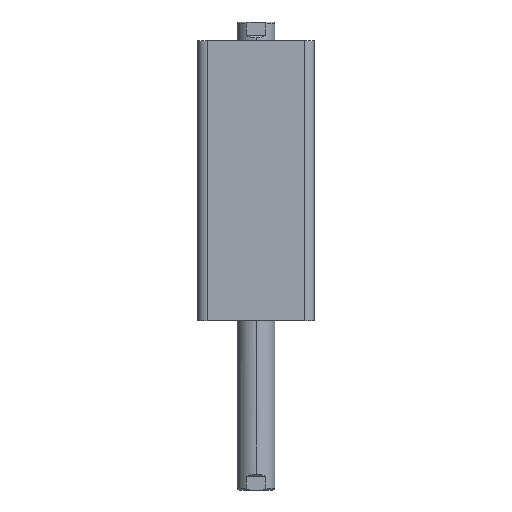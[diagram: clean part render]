
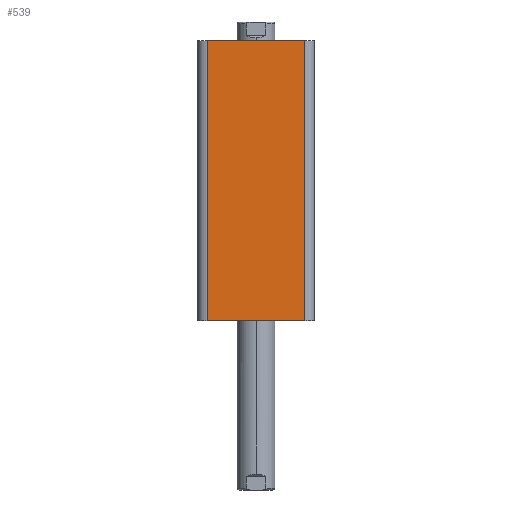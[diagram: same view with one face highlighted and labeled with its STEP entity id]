
A CAD part, left-side view. The second image highlights one B-rep face of the part: STEP entity #539.
In plain terms, the highlighted planar face has unit normal (-1, 0, 0).
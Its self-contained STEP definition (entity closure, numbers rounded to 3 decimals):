
#287 = PLANE ( 'NONE',  #2523 ) ;
#300 = DIRECTION ( 'NONE',  ( 1., 0., 0. ) ) ;
#304 = CARTESIAN_POINT ( 'NONE',  ( -31., 31., 149. ) ) ;
#306 = DIRECTION ( 'NONE',  ( 0., 1., 0. ) ) ;
#539 = ADVANCED_FACE ( 'NONE', ( #1938 ), #287, .F. ) ;
#667 = CARTESIAN_POINT ( 'NONE',  ( -31., -26., 149. ) ) ;
#678 = CARTESIAN_POINT ( 'NONE',  ( -31., 31., 0. ) ) ;
#679 = DIRECTION ( 'NONE',  ( 0., -1., 0. ) ) ;
#680 = DIRECTION ( 'NONE',  ( 0., 0., 1. ) ) ;
#681 = CARTESIAN_POINT ( 'NONE',  ( -31., 31., 149. ) ) ;
#682 = DIRECTION ( 'NONE',  ( 0., -1., 0. ) ) ;
#683 = CARTESIAN_POINT ( 'NONE',  ( -31., 26., 149. ) ) ;
#684 = DIRECTION ( 'NONE',  ( 0., 0., -1. ) ) ;
#1370 = CARTESIAN_POINT ( 'NONE',  ( -31., -26., 149. ) ) ;
#1372 = CARTESIAN_POINT ( 'NONE',  ( -31., -26., 0. ) ) ;
#1374 = CARTESIAN_POINT ( 'NONE',  ( -31., 26., 149. ) ) ;
#1379 = CARTESIAN_POINT ( 'NONE',  ( -31., 26., 0. ) ) ;
#1594 = LINE ( 'NONE', #667, #1603 ) ;
#1598 = LINE ( 'NONE', #678, #1601 ) ;
#1601 = VECTOR ( 'NONE', #679, 1000. ) ;
#1602 = LINE ( 'NONE', #681, #1605 ) ;
#1603 = VECTOR ( 'NONE', #680, 1000. ) ;
#1604 = LINE ( 'NONE', #683, #1607 ) ;
#1605 = VECTOR ( 'NONE', #682, 1000. ) ;
#1607 = VECTOR ( 'NONE', #684, 1000. ) ;
#1752 = EDGE_LOOP ( 'NONE', ( #2679, #2678, #2677, #2676 ) ) ;
#1938 = FACE_OUTER_BOUND ( 'NONE', #1752, .T. ) ;
#2425 = EDGE_CURVE ( 'NONE', #2703, #2693, #1598, .T. ) ;
#2426 = EDGE_CURVE ( 'NONE', #2693, #2698, #1594, .T. ) ;
#2427 = EDGE_CURVE ( 'NONE', #2697, #2698, #1602, .T. ) ;
#2428 = EDGE_CURVE ( 'NONE', #2697, #2703, #1604, .T. ) ;
#2523 = AXIS2_PLACEMENT_3D ( 'NONE', #304, #300, #306 ) ;
#2676 = ORIENTED_EDGE ( 'NONE', *, *, #2428, .T. ) ;
#2677 = ORIENTED_EDGE ( 'NONE', *, *, #2427, .F. ) ;
#2678 = ORIENTED_EDGE ( 'NONE', *, *, #2426, .T. ) ;
#2679 = ORIENTED_EDGE ( 'NONE', *, *, #2425, .T. ) ;
#2693 = VERTEX_POINT ( 'NONE', #1372 ) ;
#2697 = VERTEX_POINT ( 'NONE', #1374 ) ;
#2698 = VERTEX_POINT ( 'NONE', #1370 ) ;
#2703 = VERTEX_POINT ( 'NONE', #1379 ) ;
